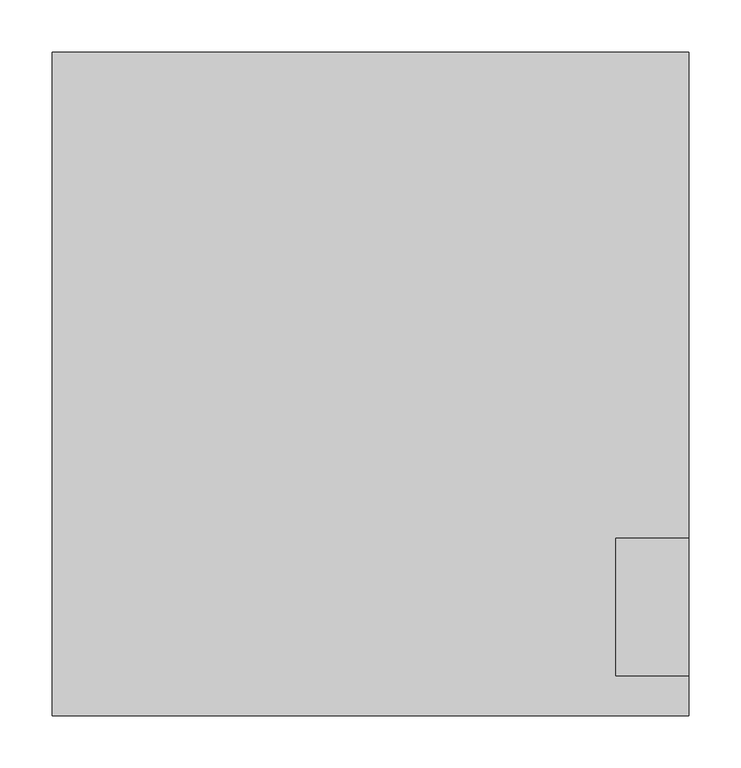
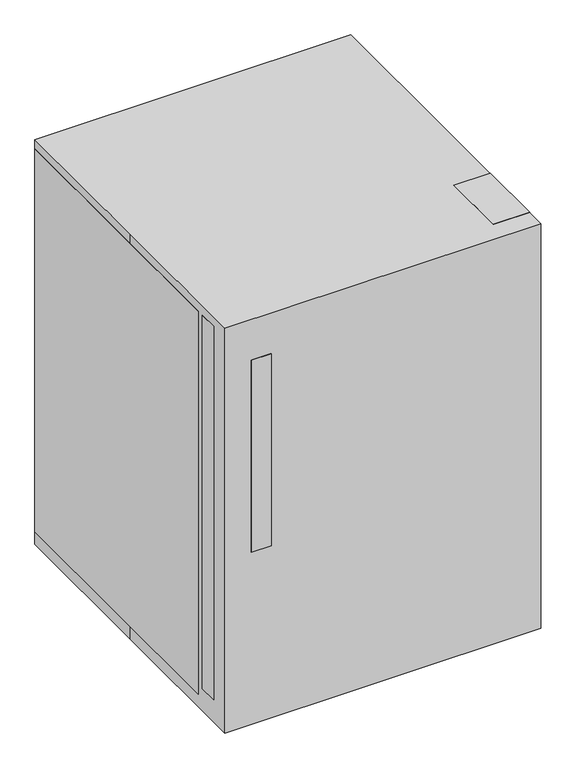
"""IFC4 building model written with IfcOpenShell, lengths in millimetres: proxy geometry, R6200 - Refrigerator, U-C or F-S, 5 Cu Ft (1) : R6200 - Refrigerator, U-C or F-S, 5 Cu Ft (1)."""

import ifcopenshell
import ifcopenshell.guid

model = None  # the IFC model being written
_history = None  # IfcOwnerHistory: only IFC2X3 demands one
_inside = {}  # id of a spatial element -> (the spatial element, [elements in it])
_under = {}  # id of a project, library or spatial element -> (it, [spatial elements below it])
_declared = {}  # id of a project -> (the project, [libraries it declares])
_typed = {}  # id of a type object -> (the type object, [elements of that type])
_made_of = {}  # id of a material, layer set ... -> (it, [elements and type objects made of it])


def new_model(schema):
    """Start an empty IFC model of exactly this schema.

    Asked for "IFC4X3", IfcOpenShell would pick the latest addendum, in which some entities
    have other attributes; the version numbers below select the first issue.
    IFC2X3 requires an IfcOwnerHistory on every rooted entity: one is made here for all.
    """
    global model, _history
    if schema == "IFC4X3":
        model = ifcopenshell.file(schema_version=(4, 3, 0, 0))
    else:
        model = ifcopenshell.file(schema=schema)
    _inside.clear()
    _under.clear()
    _declared.clear()
    _typed.clear()
    _made_of.clear()
    _history = None
    if model.schema == "IFC2X3":
        org = make("IfcOrganization", Name="unknown")
        user = make(
            "IfcPersonAndOrganization",
            ThePerson=make("IfcPerson", FamilyName="unknown"),
            TheOrganization=org,
        )
        app = make(
            "IfcApplication",
            ApplicationDeveloper=org,
            Version="unknown",
            ApplicationFullName="unknown",
            ApplicationIdentifier="unknown",
        )
        _history = make(
            "IfcOwnerHistory",
            OwningUser=user,
            OwningApplication=app,
            ChangeAction="ADDED",
            CreationDate=0,
        )
    return model


def make(cls, **values):
    """One entity of the class cls with the attributes given. An attribute that is None is left unset."""
    return model.create_entity(
        cls, **{name: value for name, value in values.items() if value is not None}
    )


def rooted(cls, **values):
    """An entity with a GlobalId (a new one), such as an element, a storey or a relation."""
    return make(cls, GlobalId=ifcopenshell.guid.new(), OwnerHistory=_history, **values)


def si_unit(unit_type, name, prefix=None):
    """IfcSIUnit, for example si_unit("LENGTHUNIT", "METRE", prefix="MILLI")."""
    return make("IfcSIUnit", UnitType=unit_type, Prefix=prefix, Name=name)


def assignment(units):
    """IfcUnitAssignment: the units of a project."""
    return None if units is None else make("IfcUnitAssignment", Units=units)


def point(xyz):
    """IfcCartesianPoint."""
    return None if xyz is None else make("IfcCartesianPoint", Coordinates=xyz)


def direction(xyz):
    """IfcDirection."""
    return None if xyz is None else make("IfcDirection", DirectionRatios=xyz)


def frame(location, z_axis=None, x_axis=None):
    """IfcAxis2Placement3D, a coordinate frame: its origin and axes. An axis left out is left unset."""
    return make(
        "IfcAxis2Placement3D",
        Location=point(location),
        Axis=direction(z_axis),
        RefDirection=direction(x_axis),
    )


def frame_2d(location, x_axis=None):
    """IfcAxis2Placement2D, a coordinate frame in the plane: its origin and x axis."""
    return make(
        "IfcAxis2Placement2D", Location=point(location), RefDirection=direction(x_axis)
    )


def origin():
    """The frame at (0, 0, 0) with its axes left unset."""
    return frame((0.0, 0.0, 0.0))


def origin_with_axes():
    """The frame at (0, 0, 0) with the z axis (0, 0, 1) and the x axis (1, 0, 0) written out."""
    return frame((0.0, 0.0, 0.0), z_axis=(0.0, 0.0, 1.0), x_axis=(1.0, 0.0, 0.0))


def place(relative_to, where):
    """IfcLocalPlacement: puts the frame where relative to a parent placement (None: the world)."""
    return make(
        "IfcLocalPlacement", PlacementRelTo=relative_to, RelativePlacement=where
    )


def context(
    kind, dimensions, precision=None, world=None, true_north=None, identifier=None
):
    """IfcGeometricRepresentationContext, for example the 3D "Model" context."""
    return make(
        "IfcGeometricRepresentationContext",
        ContextIdentifier=identifier,
        ContextType=kind,
        CoordinateSpaceDimension=dimensions,
        Precision=precision,
        WorldCoordinateSystem=world,
        TrueNorth=true_north,
    )


def project(units=None, contexts=None):
    """IfcProject with its units and contexts."""
    return rooted(
        "IfcProject",
        Name="project",
        RepresentationContexts=contexts,
        UnitsInContext=assignment(units),
    )


def spatial(cls, under=None, at=None, **own):
    """A site, building, storey or space (cls), placed at a placement, below another one or the project."""
    s = rooted(cls, ObjectPlacement=at, **own)
    if under is not None:
        _under.setdefault(under.id(), (under, []))[1].append(s)
    return s


def polyline(points):
    """IfcPolyline through the points."""
    return make("IfcPolyline", Points=[point(p) for p in points])


def circle_curve(where, radius):
    """IfcCircle in the frame where."""
    return make("IfcCircle", Position=where, Radius=radius)


def trimmed(basis, trim1, trim2, sense, master):
    """IfcTrimmedCurve: the piece of a basis curve between two trims."""
    return make(
        "IfcTrimmedCurve",
        BasisCurve=basis,
        Trim1=trim1,
        Trim2=trim2,
        SenseAgreement=sense,
        MasterRepresentation=master,
    )


def segment(curve, same_sense, transition):
    """IfcCompositeCurveSegment."""
    return make(
        "IfcCompositeCurveSegment",
        Transition=transition,
        SameSense=same_sense,
        ParentCurve=curve,
    )


def composite_curve(segments, self_intersect=None):
    """IfcCompositeCurve: segments joined end to end."""
    return make("IfcCompositeCurve", Segments=segments, SelfIntersect=self_intersect)


def outline(outer, holes=None, kind="AREA"):
    """IfcArbitraryClosedProfileDef: a profile drawn as a closed curve; with holes, ...WithVoids."""
    if holes is None:
        return make("IfcArbitraryClosedProfileDef", ProfileType=kind, OuterCurve=outer)
    return make(
        "IfcArbitraryProfileDefWithVoids",
        ProfileType=kind,
        OuterCurve=outer,
        InnerCurves=holes,
    )


def extrude(swept, where, along, depth):
    """IfcExtrudedAreaSolid: the profile swept, set in the frame where, extruded along a direction by depth."""
    return make(
        "IfcExtrudedAreaSolid",
        SweptArea=swept,
        Position=where,
        ExtrudedDirection=direction(along),
        Depth=depth,
    )


def shape(context_of_items, identifier, shape_type, items):
    """IfcShapeRepresentation: the items that make up one representation, for example the "Body"."""
    return make(
        "IfcShapeRepresentation",
        ContextOfItems=context_of_items,
        RepresentationIdentifier=identifier,
        RepresentationType=shape_type,
        Items=items,
    )


def source(mapping_origin, context_of_items, identifier, shape_type, items):
    """IfcRepresentationMap: a shape defined once, which mapped items show again and again."""
    return make(
        "IfcRepresentationMap",
        MappingOrigin=mapping_origin,
        MappedRepresentation=shape(context_of_items, identifier, shape_type, items),
    )


def transform(
    local_origin,
    x_axis=None,
    y_axis=None,
    z_axis=None,
    scale=None,
    scale2=None,
    scale3=None,
    uniform=True,
):
    """IfcCartesianTransformationOperator3D, or its non-uniform kind. x_axis, y_axis, z_axis: its Axis1, 2, 3."""
    if uniform:
        return make(
            "IfcCartesianTransformationOperator3D",
            Axis1=direction(x_axis),
            Axis2=direction(y_axis),
            LocalOrigin=point(local_origin),
            Scale=scale,
            Axis3=direction(z_axis),
        )
    return make(
        "IfcCartesianTransformationOperator3DnonUniform",
        Axis1=direction(x_axis),
        Axis2=direction(y_axis),
        LocalOrigin=point(local_origin),
        Scale=scale,
        Axis3=direction(z_axis),
        Scale2=scale2,
        Scale3=scale3,
    )


def mapped(mapping_source, mapping_target):
    """IfcMappedItem: shows the shape of a source again, moved by a transform."""
    return make(
        "IfcMappedItem", MappingSource=mapping_source, MappingTarget=mapping_target
    )


def made_of(thing, what):
    """Note that an element or type object is made of a material, layer set ...; save() writes the relation."""
    if what is not None:
        _made_of.setdefault(what.id(), (what, []))[1].append(thing)
    return thing


def element(
    cls,
    number,
    at=None,
    inside=None,
    cuts=None,
    type_object=None,
    material=None,
    context=None,
    identifier="Body",
    shape_type=None,
    held_by="IfcProductDefinitionShape",
    body=None,
    shapes=None,
    **own,
):
    """One element of the class cls, such as IfcWall. Its Tag is "e" and its number.

    at: its placement. inside: the storey or other place that contains it. cuts: it is an
    opening in that element (IfcRelVoidsElement). A single representation is given by context,
    identifier, shape_type and body (its items); several are given by shapes. held_by: the class
    of the entity that holds the representations. save() writes the other relations.
    """
    e = rooted(cls, Tag="e%d" % number, ObjectPlacement=at, **own)
    if body is not None:
        shapes = [shape(context, identifier, shape_type, body)]
    if shapes is not None:
        e.Representation = make(held_by, Representations=shapes)
    if inside is not None:
        _inside.setdefault(inside.id(), (inside, []))[1].append(e)
    if cuts is not None:
        rooted(
            "IfcRelVoidsElement", RelatingBuildingElement=cuts, RelatedOpeningElement=e
        )
    if type_object is not None:
        _typed.setdefault(type_object.id(), (type_object, []))[1].append(e)
    return made_of(e, material)


def aggregate(whole, parts):
    """IfcRelAggregates: a whole, such as a stair, and the parts it consists of."""
    return rooted("IfcRelAggregates", RelatingObject=whole, RelatedObjects=parts)


def save(model, path):
    """Write the relations noted so far, then the file.

    IfcRelAggregates (storeys below a building ...), IfcRelContainedInSpatialStructure (elements
    in a storey), IfcRelDefinesByType, IfcRelAssociatesMaterial and IfcRelDeclares: one each for
    every whole, place, type object, material and project.
    """
    for whole, parts in _under.values():
        aggregate(whole, parts)
    for where, things in _inside.values():
        rooted(
            "IfcRelContainedInSpatialStructure",
            RelatedElements=things,
            RelatingStructure=where,
        )
    for kind, things in _typed.values():
        rooted("IfcRelDefinesByType", RelatedObjects=things, RelatingType=kind)
    for what, things in _made_of.values():
        rooted("IfcRelAssociatesMaterial", RelatedObjects=things, RelatingMaterial=what)
    for by, libraries in _declared.values():
        rooted("IfcRelDeclares", RelatingContext=by, RelatedDefinitions=libraries)
    model.write(path)


def specialty_equipment_7427381c(model_context):
    return source(origin(), model_context, "Body", "SweptSolid", [
        extrude(outline(polyline([(304.8, -279.4), (234.95, -279.4), (234.95, -228.6), (304.8, -228.6), (304.8, -279.4)])), frame((0.0, 0.0, 25.4), z_axis=(0.0, 0.0, 1.0), x_axis=(1.0, 0.0, 0.0)), (0.0, 0.0, 1.0), 19.05),
        extrude(outline(polyline([(-317.5, 351.4614039), (-317.5, 742.95), (-279.4, 742.95), (-279.4, 730.2659299), (-304.8159299, 730.2659299), (-304.8159299, 364.1614039), (-279.4, 364.1614039), (-279.4, 351.4614039), (-317.5, 351.4614039)])), frame((-254.0, 0.0, 0.0), z_axis=(1.0, 0.0, 0.0), x_axis=(0.0, 1.0, 0.0)), (0.0, 0.0, 1.0), 38.1),
        extrude(outline(polyline([(304.8, -279.4), (234.95, -279.4), (234.95, -147.9315495), (304.8, -147.9315495), (304.8, -279.4)])), frame((0.0, 0.0, 806.45), z_axis=(0.0, 0.0, 1.0), x_axis=(1.0, 0.0, 0.0)), (0.0, 0.0, 1.0), 19.05),
        extrude(outline(polyline([(292.1, -241.3), (-292.1, -241.3), (-292.1, -228.6), (292.1, -228.6), (292.1, -241.3)])), frame((0.0, 0.0, 66.7735467), z_axis=(0.0, 0.0, 1.0), x_axis=(1.0, 0.0, 0.0)), (0.0, 0.0, 1.0), 720.6264533),
        extrude(outline(polyline([(304.8, -279.4), (-304.8, -279.4), (-304.8, -241.3), (304.8, -241.3), (304.8, -279.4)])), frame((0.0, 0.0, 44.45), z_axis=(0.0, 0.0, 1.0), x_axis=(1.0, 0.0, 0.0)), (0.0, 0.0, 1.0), 762.0),
        extrude(outline(polyline([(304.8, 317.5), (304.8, -228.6), (-304.8, -228.6), (-304.8, 317.5), (304.8, 317.5)])), frame((0.0, 0.0, 25.4), z_axis=(0.0, 0.0, 1.0), x_axis=(1.0, 0.0, 0.0)), (0.0, 0.0, 1.0), 781.05),
        extrude(outline(composite_curve([segment(trimmed(circle_curve(frame_2d((-231.6775617, -167.1820241)), 31.75), [point((-199.9275617, -167.1820241))], [point((-263.4275617, -167.1820241))], False, "CARTESIAN"), True, "CONTINUOUS"), segment(trimmed(circle_curve(frame_2d((-231.6775617, -167.1820241)), 31.75), [point((-263.4275617, -167.1820241))], [point((-199.9275617, -167.1820241))], False, "CARTESIAN"), True, "CONTINUOUS")], self_intersect=False)), origin_with_axes(), (0.0, 0.0, 1.0), 25.4),
        extrude(outline(composite_curve([segment(trimmed(circle_curve(frame_2d((231.6775617, -167.1820241)), 31.75), [point((199.9275617, -167.1820241))], [point((263.4275617, -167.1820241))], False, "CARTESIAN"), True, "CONTINUOUS"), segment(trimmed(circle_curve(frame_2d((231.6775617, -167.1820241)), 31.75), [point((263.4275617, -167.1820241))], [point((199.9275617, -167.1820241))], False, "CARTESIAN"), True, "CONTINUOUS")], self_intersect=False)), origin_with_axes(), (0.0, 0.0, 1.0), 25.4),
        extrude(outline(composite_curve([segment(trimmed(circle_curve(frame_2d((-231.6775617, 251.9179759)), 31.75), [point((-199.9275617, 251.9179759))], [point((-263.4275617, 251.9179759))], False, "CARTESIAN"), True, "CONTINUOUS"), segment(trimmed(circle_curve(frame_2d((-231.6775617, 251.9179759)), 31.75), [point((-263.4275617, 251.9179759))], [point((-199.9275617, 251.9179759))], False, "CARTESIAN"), True, "CONTINUOUS")], self_intersect=False)), origin_with_axes(), (0.0, 0.0, 1.0), 25.4),
        extrude(outline(composite_curve([segment(trimmed(circle_curve(frame_2d((231.6775617, 251.9179759)), 31.75), [point((199.9275617, 251.9179759))], [point((263.4275617, 251.9179759))], False, "CARTESIAN"), True, "CONTINUOUS"), segment(trimmed(circle_curve(frame_2d((231.6775617, 251.9179759)), 31.75), [point((263.4275617, 251.9179759))], [point((199.9275617, 251.9179759))], False, "CARTESIAN"), True, "CONTINUOUS")], self_intersect=False)), origin_with_axes(), (0.0, 0.0, 1.0), 25.4),
        extrude(outline(polyline([(-304.8, 317.5), (304.8, 317.5), (304.8, -317.5), (-304.8, -317.5), (-304.8, 0.0), (-304.8, 317.5)])), origin_with_axes(), (0.0, 0.0, 1.0), 825.5),
    ])


if __name__ == "__main__":
    model = new_model("IFC4")
    model_context = context("Model", 3, world=origin())
    ifc_project = project(units=[si_unit("LENGTHUNIT", "METRE", prefix="MILLI")], contexts=[model_context])
    site = spatial("IfcSite", under=ifc_project)
    building = spatial("IfcBuilding", under=site)
    placement = place(None, origin())
    specialty_equipment_shape = specialty_equipment_7427381c(model_context)
    element("IfcBuildingElementProxy", 1, Name="R6200 - Refrigerator, U-C or F-S, 5 Cu Ft (1) : R6200 - Refrigerator, U-C or F-S, 5 Cu Ft (1)", ObjectType="R6200 - Refrigerator, U-C or F-S, 5 Cu Ft (1) : R6200 - Refrigerator, U-C or F-S, 5 Cu Ft (1)", at=placement, inside=building, context=model_context, shape_type="MappedRepresentation", body=[
        mapped(specialty_equipment_shape, transform((0.0, 0.0, 0.0), x_axis=(1.0, 0.0, 0.0), y_axis=(0.0, 1.0, 0.0), z_axis=(0.0, 0.0, 1.0))),
    ])
    save(model, "model.ifc")
